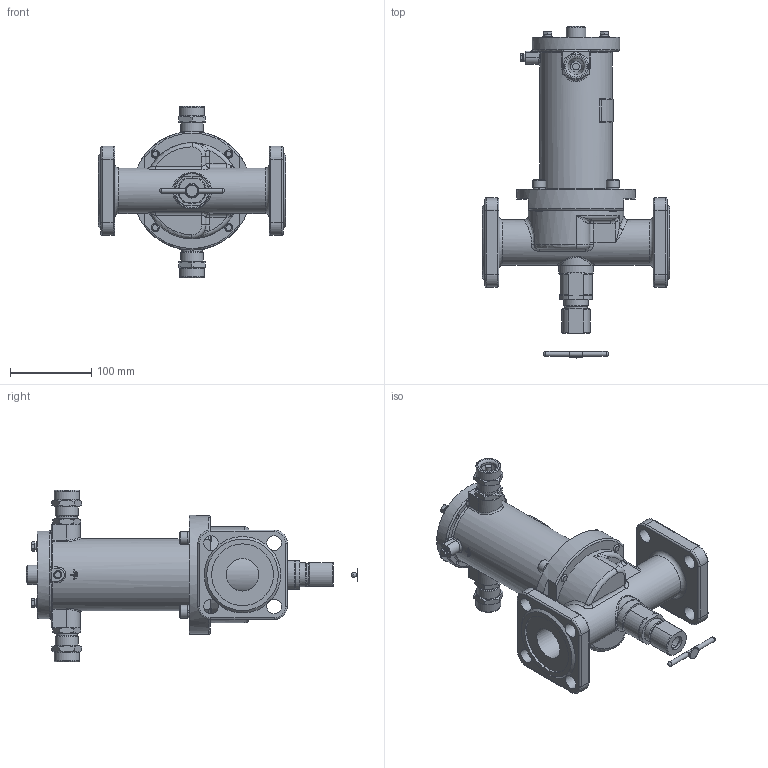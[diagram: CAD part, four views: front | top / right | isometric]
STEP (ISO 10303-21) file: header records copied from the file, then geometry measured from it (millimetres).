
FILE_DESCRIPTION(('STEP AP203'), '1');
FILE_NAME('ÑÅÍÑ DN40PN25-ÑÂ.stp', '2018-09-19T08:34:23', ('Îðëîâ Å.Â.'), ('ÎÎÎ ÍÏÏ Ñåíñîð'), 'ASCON STEP Converter 1.3', 'Kompas 3D', '');
FILE_SCHEMA(('CONFIG_CONTROL_DESIGN','SUPPORT_RESOURCE_SCHEMA'));
Length unit declared in the file: millimetre
Products named in the file (1): 7
Bounding box: 230 x 408.3 x 211 mm (x, y, z)
Volume: 1524482.5 mm3; surface area: 377583.4 mm2
Topology: 2 solids, 18 shells, 1970 faces, 5234 edges, 3378 vertices
Faces by surface type: cylinder 1002, plane 725, cone 126, torus 50, bspline 47, extrusion 16, sphere 4
Full cylindrical faces by diameter (mm): 3.5 x2, 4.134 x1, 4.917 x4, 5 x1, 6 x11, 6.5 x4, 8 x8, 10 x9, 11 x4, 12 x4, 13 x2, 16 x6, 17 x2, 18 x9, 20 x5, 22 x2, 22.376 x2, 23 x1, 23.5 x2, 24 x3, 24.5 x2, 26 x4, 26.376 x2, 27.8 x1, 28 x3, 28.5 x2, 30 x2, 31 x2, 40 x2, 42 x1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
Entity records: 76806 total; most frequent: CARTESIAN_POINT 26760, DIRECTION 10860, ORIENTED_EDGE 10410, EDGE_CURVE 5205, AXIS2_PLACEMENT_3D 4168, VERTEX_POINT 3378, VECTOR 2524, LINE 2508
